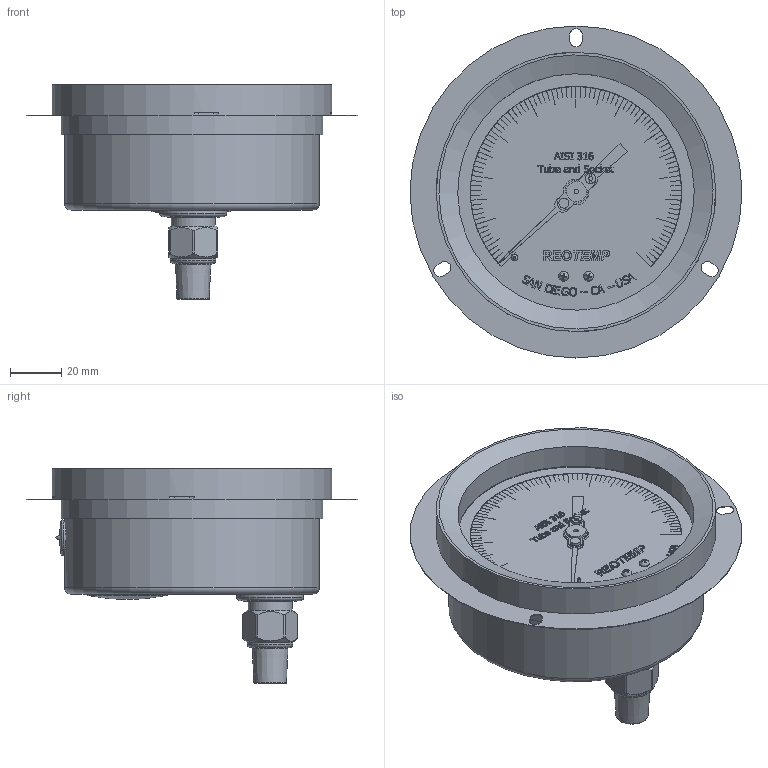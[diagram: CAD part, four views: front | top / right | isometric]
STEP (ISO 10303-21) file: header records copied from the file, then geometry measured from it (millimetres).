
FILE_DESCRIPTION(/* description */ (''),/* implementation_level */ '2;1');
FILE_NAME(/* name */ 'P:\Drawings, Sketches\Pressure\Finished Product\Gauges\All Welded SS\20167 X1 - PR40S1E4L20-G-T.stp',/* time_stamp */ '2017-04-25T12:06:11-07:00',/* author */ ('mneill'),/* organization */ (''),/* preprocessor_version */ 'ST-DEVELOPER v15.2',/* originating_system */ 'Autodesk Inventor 2014',/* authorisation */ '');
FILE_SCHEMA (('AUTOMOTIVE_DESIGN { 1 0 10303 214 3 1 1 }'));
Length unit declared in the file: inch
Products named in the file (1): Part5
Bounding box: 129.79 x 129.79 x 83.9 mm (x, y, z)
Volume: 218509.9 mm3; surface area: 70245.1 mm2
Topology: 1 solids, 6 shells, 1319 faces, 3519 edges, 2333 vertices
Faces by surface type: plane 914, bspline 285, cylinder 104, torus 8, cone 7, sphere 1
Full cylindrical faces by diameter (mm): 1.016 x2, 1.6 x1, 1.74 x1, 2.54 x1, 3.048 x1, 3.302 x2, 3.937 x1, 3.988 x1, 5.994 x1, 7.874 x1, 13.97 x1, 17.145 x1, 17.78 x1, 26.162 x1, 31.242 x1, 92.456 x2, 99.695 x1, 101.854 x1, 102.36 x1, 109.22 x1, 129.794 x1
Entity records: 44101 total; most frequent: CARTESIAN_POINT 12057, ORIENTED_EDGE 6930, DIRECTION 5147, EDGE_CURVE 3465, LINE 2593, VECTOR 2593, VERTEX_POINT 2321, EDGE_LOOP 1498
